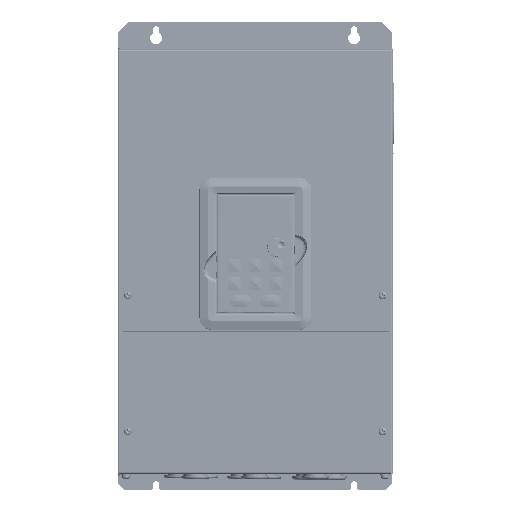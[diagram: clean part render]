
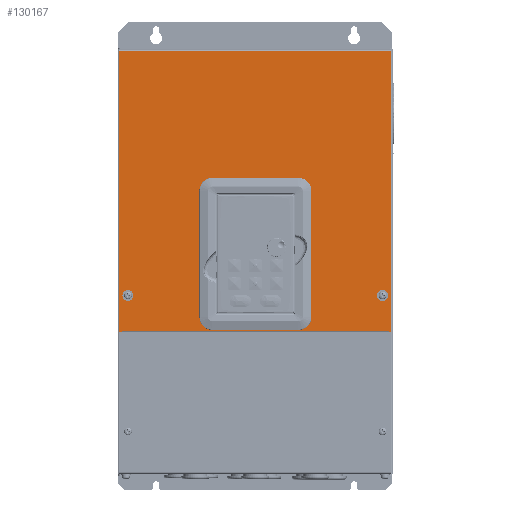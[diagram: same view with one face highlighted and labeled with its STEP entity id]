
A CAD part, top view. The second image highlights one B-rep face of the part: STEP entity #130167.
In plain terms, the highlighted planar face has unit normal (0, 0, 1) as drawn and (0, 1, 0) by its records, which use the part's own axes.
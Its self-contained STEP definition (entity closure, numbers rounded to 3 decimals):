
#127943=DIRECTION('',(-1.,0.,0.));
#127944=VECTOR('',#127943,245.6);
#127945=CARTESIAN_POINT('',(122.8,1.2,-128.8));
#127946=LINE('',#127945,#127944);
#127952=DIRECTION('',(0.,0.,1.));
#127953=VECTOR('',#127952,1.2);
#127954=CARTESIAN_POINT('',(122.8,1.2,-130.));
#127955=LINE('',#127954,#127953);
#127994=DIRECTION('',(0.,0.,-1.));
#127995=VECTOR('',#127994,258.3);
#127996=CARTESIAN_POINT('',(124.8,1.2,128.3));
#127997=LINE('',#127996,#127995);
#128068=DIRECTION('',(1.,0.,0.));
#128069=VECTOR('',#128068,249.6);
#128070=CARTESIAN_POINT('',(-124.8,1.2,128.3));
#128071=LINE('',#128070,#128069);
#128310=DIRECTION('',(0.,0.,1.));
#128311=VECTOR('',#128310,258.3);
#128312=CARTESIAN_POINT('',(-124.8,1.2,-130.));
#128313=LINE('',#128312,#128311);
#128515=DIRECTION('',(1.,0.,0.));
#128516=VECTOR('',#128515,2.);
#128517=CARTESIAN_POINT('',(122.8,1.2,-130.));
#128518=LINE('',#128517,#128516);
#128519=DIRECTION('',(1.,0.,0.));
#128520=VECTOR('',#128519,2.);
#128521=CARTESIAN_POINT('',(-124.8,1.2,-130.));
#128522=LINE('',#128521,#128520);
#128523=DIRECTION('',(0.,0.,1.));
#128524=VECTOR('',#128523,1.2);
#128525=CARTESIAN_POINT('',(-122.8,1.2,-130.));
#128526=LINE('',#128525,#128524);
#128527=CARTESIAN_POINT('',(-117.,1.2,-96.2));
#128528=DIRECTION('',(0.,1.,0.));
#128529=DIRECTION('',(1.,0.,0.));
#128530=AXIS2_PLACEMENT_3D('',#128527,#128528,#128529);
#128532=CARTESIAN_POINT('',(-117.,1.2,-96.2));
#128533=DIRECTION('',(0.,1.,0.));
#128534=DIRECTION('',(-1.,0.,0.));
#128535=AXIS2_PLACEMENT_3D('',#128532,#128533,#128534);
#128537=CARTESIAN_POINT('',(117.,1.2,-96.2));
#128538=DIRECTION('',(0.,1.,0.));
#128539=DIRECTION('',(1.,0.,0.));
#128540=AXIS2_PLACEMENT_3D('',#128537,#128538,#128539);
#128542=CARTESIAN_POINT('',(117.,1.2,-96.2));
#128543=DIRECTION('',(0.,1.,0.));
#128544=DIRECTION('',(-1.,0.,0.));
#128545=AXIS2_PLACEMENT_3D('',#128542,#128543,#128544);
#128547=DIRECTION('',(0.,0.,1.));
#128548=VECTOR('',#128547,95.);
#128549=CARTESIAN_POINT('',(-49.,1.2,-105.5));
#128550=LINE('',#128549,#128548);
#128551=CARTESIAN_POINT('',(-39.,1.2,-10.5));
#128552=DIRECTION('',(0.,1.,0.));
#128553=DIRECTION('',(-1.,0.,0.));
#128554=AXIS2_PLACEMENT_3D('',#128551,#128552,#128553);
#128556=DIRECTION('',(1.,0.,0.));
#128557=VECTOR('',#128556,78.);
#128558=CARTESIAN_POINT('',(-39.,1.2,-0.5));
#128559=LINE('',#128558,#128557);
#128560=CARTESIAN_POINT('',(39.,1.2,-10.5));
#128561=DIRECTION('',(0.,1.,0.));
#128562=DIRECTION('',(0.,0.,1.));
#128563=AXIS2_PLACEMENT_3D('',#128560,#128561,#128562);
#128565=DIRECTION('',(0.,0.,-1.));
#128566=VECTOR('',#128565,95.);
#128567=CARTESIAN_POINT('',(49.,1.2,-10.5));
#128568=LINE('',#128567,#128566);
#128569=CARTESIAN_POINT('',(39.,1.2,-105.5));
#128570=DIRECTION('',(0.,1.,0.));
#128571=DIRECTION('',(1.,0.,0.));
#128572=AXIS2_PLACEMENT_3D('',#128569,#128570,#128571);
#128574=DIRECTION('',(-1.,0.,0.));
#128575=VECTOR('',#128574,78.);
#128576=CARTESIAN_POINT('',(39.,1.2,-115.5));
#128577=LINE('',#128576,#128575);
#128578=CARTESIAN_POINT('',(-39.,1.2,-105.5));
#128579=DIRECTION('',(0.,1.,0.));
#128580=DIRECTION('',(0.,0.,-1.));
#128581=AXIS2_PLACEMENT_3D('',#128578,#128579,#128580);
#128883=CARTESIAN_POINT('',(122.8,1.2,-128.8));
#128884=VERTEX_POINT('',#128883);
#128885=CARTESIAN_POINT('',(-122.8,1.2,-128.8));
#128886=VERTEX_POINT('',#128885);
#128887=CARTESIAN_POINT('',(122.8,1.2,-130.));
#128888=VERTEX_POINT('',#128887);
#128889=CARTESIAN_POINT('',(124.8,1.2,-130.));
#128890=VERTEX_POINT('',#128889);
#128891=CARTESIAN_POINT('',(-122.8,1.2,-130.));
#128892=VERTEX_POINT('',#128891);
#128893=CARTESIAN_POINT('',(-124.8,1.2,-130.));
#128894=VERTEX_POINT('',#128893);
#128903=CARTESIAN_POINT('',(124.8,1.2,128.3));
#128904=VERTEX_POINT('',#128903);
#128923=CARTESIAN_POINT('',(-124.8,1.2,128.3));
#128924=VERTEX_POINT('',#128923);
#129011=CARTESIAN_POINT('',(-113.25,1.2,-96.2));
#129012=CARTESIAN_POINT('',(-120.75,1.2,-96.2));
#129013=VERTEX_POINT('',#129011);
#129014=VERTEX_POINT('',#129012);
#129015=CARTESIAN_POINT('',(120.75,1.2,-96.2));
#129016=CARTESIAN_POINT('',(113.25,1.2,-96.2));
#129017=VERTEX_POINT('',#129015);
#129018=VERTEX_POINT('',#129016);
#129019=CARTESIAN_POINT('',(-49.,1.2,-105.5));
#129020=CARTESIAN_POINT('',(-49.,1.2,-10.5));
#129021=VERTEX_POINT('',#129019);
#129022=VERTEX_POINT('',#129020);
#129023=CARTESIAN_POINT('',(-39.,1.2,-0.5));
#129024=VERTEX_POINT('',#129023);
#129025=CARTESIAN_POINT('',(39.,1.2,-0.5));
#129026=VERTEX_POINT('',#129025);
#129027=CARTESIAN_POINT('',(49.,1.2,-10.5));
#129028=VERTEX_POINT('',#129027);
#129029=CARTESIAN_POINT('',(49.,1.2,-105.5));
#129030=VERTEX_POINT('',#129029);
#129031=CARTESIAN_POINT('',(39.,1.2,-115.5));
#129032=VERTEX_POINT('',#129031);
#129033=CARTESIAN_POINT('',(-39.,1.2,-115.5));
#129034=VERTEX_POINT('',#129033);
#130122=CARTESIAN_POINT('',(0.,1.2,0.));
#130123=DIRECTION('',(0.,1.,0.));
#130124=DIRECTION('',(1.,0.,0.));
#130125=AXIS2_PLACEMENT_3D('',#130122,#130123,#130124);
#130126=PLANE('',#130125);
#130127=ORIENTED_EDGE('',*,*,#129202,.F.);
#130128=ORIENTED_EDGE('',*,*,#129229,.F.);
#130129=ORIENTED_EDGE('',*,*,#129244,.T.);
#130130=ORIENTED_EDGE('',*,*,#129275,.F.);
#130131=ORIENTED_EDGE('',*,*,#129404,.F.);
#130132=ORIENTED_EDGE('',*,*,#129795,.F.);
#130133=ORIENTED_EDGE('',*,*,#129823,.T.);
#130134=ORIENTED_EDGE('',*,*,#129838,.T.);
#130135=EDGE_LOOP('',(#130127,#130128,#130129,#130130,#130131,#130132,#130133,
#130134));
#130136=FACE_OUTER_BOUND('',#130135,.F.);
#130138=ORIENTED_EDGE('',*,*,#130137,.T.);
#130140=ORIENTED_EDGE('',*,*,#130139,.T.);
#130141=EDGE_LOOP('',(#130138,#130140));
#130142=FACE_BOUND('',#130141,.F.);
#130144=ORIENTED_EDGE('',*,*,#130143,.T.);
#130146=ORIENTED_EDGE('',*,*,#130145,.T.);
#130147=EDGE_LOOP('',(#130144,#130146));
#130148=FACE_BOUND('',#130147,.F.);
#130150=ORIENTED_EDGE('',*,*,#130149,.T.);
#130152=ORIENTED_EDGE('',*,*,#130151,.T.);
#130154=ORIENTED_EDGE('',*,*,#130153,.T.);
#130156=ORIENTED_EDGE('',*,*,#130155,.T.);
#130158=ORIENTED_EDGE('',*,*,#130157,.T.);
#130160=ORIENTED_EDGE('',*,*,#130159,.T.);
#130162=ORIENTED_EDGE('',*,*,#130161,.T.);
#130164=ORIENTED_EDGE('',*,*,#130163,.T.);
#130165=EDGE_LOOP('',(#130150,#130152,#130154,#130156,#130158,#130160,#130162,
#130164));
#130166=FACE_BOUND('',#130165,.F.);
#130167=ADVANCED_FACE('',(#130136,#130142,#130148,#130166),#130126,.T.);
#128531=CIRCLE('',#128530,3.75);
#128536=CIRCLE('',#128535,3.75);
#128541=CIRCLE('',#128540,3.75);
#128546=CIRCLE('',#128545,3.75);
#128555=CIRCLE('',#128554,10.);
#128564=CIRCLE('',#128563,10.);
#128573=CIRCLE('',#128572,10.);
#128582=CIRCLE('',#128581,10.);
#129202=EDGE_CURVE('',#128884,#128886,#127946,.T.);
#129229=EDGE_CURVE('',#128888,#128884,#127955,.T.);
#129244=EDGE_CURVE('',#128888,#128890,#128518,.T.);
#129275=EDGE_CURVE('',#128904,#128890,#127997,.T.);
#129404=EDGE_CURVE('',#128924,#128904,#128071,.T.);
#129795=EDGE_CURVE('',#128894,#128924,#128313,.T.);
#129823=EDGE_CURVE('',#128894,#128892,#128522,.T.);
#129838=EDGE_CURVE('',#128892,#128886,#128526,.T.);
#130137=EDGE_CURVE('',#129013,#129014,#128531,.T.);
#130139=EDGE_CURVE('',#129014,#129013,#128536,.T.);
#130143=EDGE_CURVE('',#129017,#129018,#128541,.T.);
#130145=EDGE_CURVE('',#129018,#129017,#128546,.T.);
#130149=EDGE_CURVE('',#129021,#129022,#128550,.T.);
#130151=EDGE_CURVE('',#129022,#129024,#128555,.T.);
#130153=EDGE_CURVE('',#129024,#129026,#128559,.T.);
#130155=EDGE_CURVE('',#129026,#129028,#128564,.T.);
#130157=EDGE_CURVE('',#129028,#129030,#128568,.T.);
#130159=EDGE_CURVE('',#129030,#129032,#128573,.T.);
#130161=EDGE_CURVE('',#129032,#129034,#128577,.T.);
#130163=EDGE_CURVE('',#129034,#129021,#128582,.T.);
